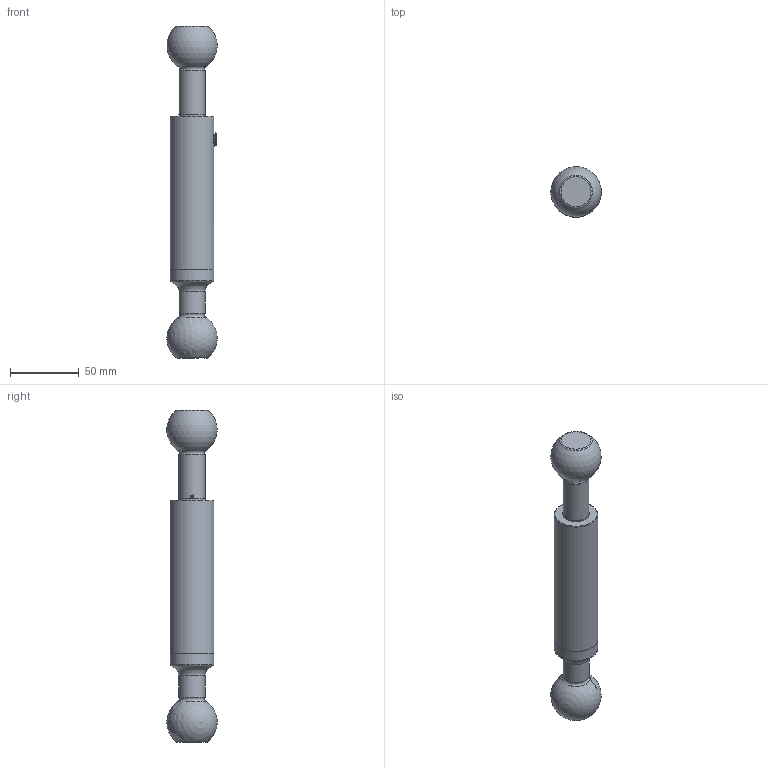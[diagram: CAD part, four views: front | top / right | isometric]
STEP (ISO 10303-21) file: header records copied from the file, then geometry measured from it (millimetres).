
FILE_DESCRIPTION(/* description */ (''),/* implementation_level */ '2;1');
FILE_NAME(/* name */ 'C:\Users\owner\Desktop\HDPL-POSTS_3D_stp\HDPL-TPOST2IN-BL.stp',/* time_stamp */ '2017-10-02T09:23:00-04:00',/* author */ ('owner'),/* organization */ (''),/* preprocessor_version */ 'ST-DEVELOPER v16.5',/* originating_system */ 'Autodesk Inventor 2017',/* authorisation */ '');
FILE_SCHEMA (('CONFIG_CONTROL_DESIGN'));
Length unit declared in the file: inch
Products named in the file (6): PL-HDTPOST2IN-BL; 60069; 60067; 60070; #92775; 60076
Assembly tree (5 placements, depth 2):
  PL-HDTPOST2IN-BL
    60069
    60067
    60070
    #92775
    60076
Bounding box: 36.52 x 36.6 x 241.01 mm (x, y, z)
Volume: 158706.7 mm3; surface area: 42537.7 mm2
Topology: 5 solids, 5 shells, 942 faces, 2534 edges, 1672 vertices
Faces by surface type: bspline 402, plane 392, cylinder 106, torus 24, cone 16, sphere 2
Full cylindrical faces by diameter (mm): 7 x1, 8.382 x1, 9.131 x1, 10.033 x1, 10.693 x1, 10.744 x1, 18.923 x2, 19.05 x1, 19.446 x1, 19.482 x1, 22.123 x1, 22.187 x1, 22.225 x2, 31.75 x2
Entity records: 39929 total; most frequent: CARTESIAN_POINT 19047, ORIENTED_EDGE 4844, DIRECTION 3157, EDGE_CURVE 2422, VERTEX_POINT 1630, LINE 1165, VECTOR 1165, EDGE_LOOP 1080
